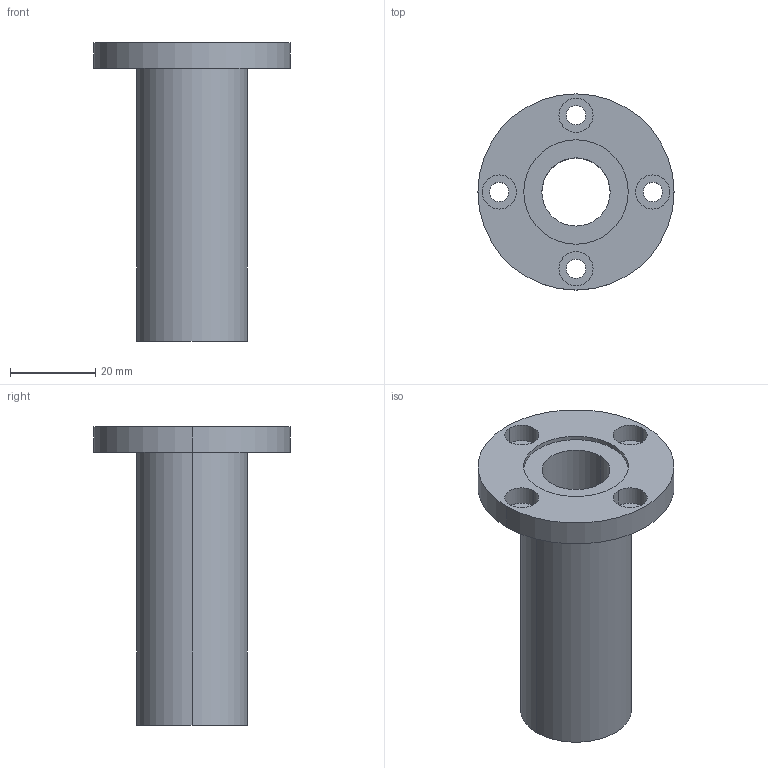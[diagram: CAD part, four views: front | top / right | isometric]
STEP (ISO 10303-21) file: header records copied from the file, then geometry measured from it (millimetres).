
FILE_DESCRIPTION((''),'2;1');
FILE_NAME('C:\Documents and Settings\ｿﾀﾀ蠑ｷ1\ｹﾙﾅﾁ ﾈｭｸ饅\ｺﾎﾇｰﾆﾄﾀﾏ\ﾁｦﾇｰ\LMEF__LUU\LMEF16LUU.stp','2005-06-15T10:53:30',('ｿﾀﾀ蠑ｷ1'),(''),'Autodesk Inventor 9','Autodesk Inventor 9','');
FILE_SCHEMA(('AUTOMOTIVE_DESIGN { 1 0 10303 214 1 1 1 1 }'));
Length unit declared in the file: millimetre
Products named in the file (1): LMEF__(L)
Bounding box: 46 x 46 x 70 mm (x, y, z)
Volume: 28349.4 mm3; surface area: 12993.9 mm2
Topology: 1 solids, 1 shells, 35 faces, 78 edges, 52 vertices
Faces by surface type: bspline 20, cylinder 10, plane 5
Entity records: 1255 total; most frequent: CARTESIAN_POINT 450, DIRECTION 162, ORIENTED_EDGE 156, EDGE_CURVE 78, AXIS2_PLACEMENT_3D 68, VERTEX_POINT 52, CIRCLE 52, EDGE_LOOP 52
